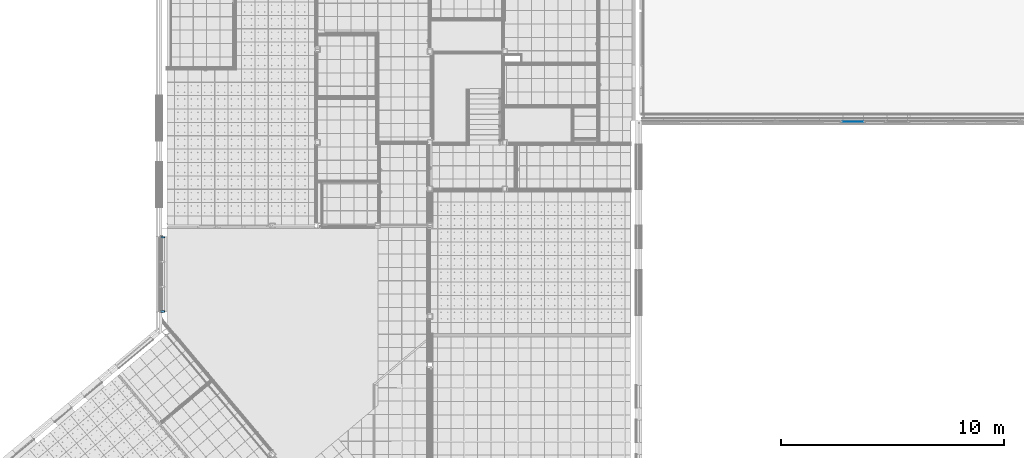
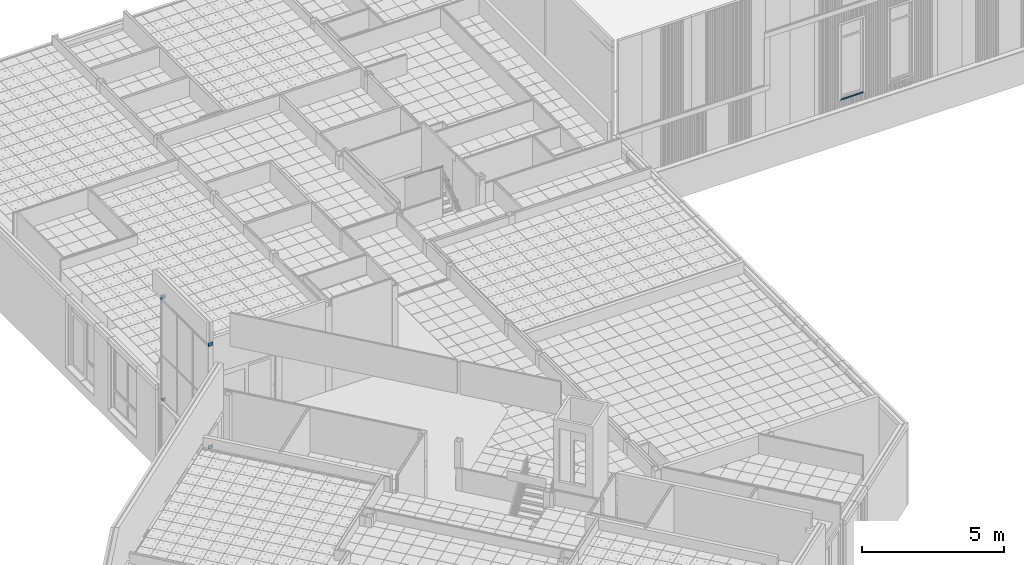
# One storey, part 42 of 338: 4 members, 1 beam, 1 element without a shape of its own.
"""IFC2X3 building model written with IfcOpenShell, lengths in millimetres."""

from ifc_helpers import new_model, entity, si_unit, converted_unit, derived_unit, money_unit, direction, frame, origin_with_axes, place, context, subcontext, project, spatial, faceted_brep, material, type_object, element, aggregate, save


model = new_model("IFC2X3")

# Units and contexts
model_context = context("Model", 3, precision=0.01, world=origin_with_axes(), true_north=direction((0.0, 1.0)))
plan_context = context("Plan", 3, precision=0.01, world=origin_with_axes(), true_north=direction((0.0, 1.0)))
body_context = subcontext(model_context, "Body", "Model", "MODEL_VIEW")
ifc_project = project(units=[si_unit("LENGTHUNIT", "METRE", prefix="MILLI"), si_unit("AREAUNIT", "SQUARE_METRE"), si_unit("VOLUMEUNIT", "CUBIC_METRE"), converted_unit("PLANEANGLEUNIT", "DEGREE", entity("IfcPlaneAngleMeasure", 0.0174532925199), si_unit("PLANEANGLEUNIT", "RADIAN"), dimensions=[0, 0, 0, 0, 0, 0, 0]), money_unit("EUR"), converted_unit("TIMEUNIT", "Year", entity("IfcTimeMeasure", 31556926.0), si_unit("TIMEUNIT", "SECOND"), dimensions=[0, 0, 1, 0, 0, 0, 0]), si_unit("MASSUNIT", "GRAM", prefix="KILO"), si_unit("THERMODYNAMICTEMPERATUREUNIT", "DEGREE_CELSIUS"), si_unit("LUMINOUSINTENSITYUNIT", "LUMEN"), si_unit("ENERGYUNIT", "JOULE", prefix="MEGA"), derived_unit("THERMALCONDUCTANCEUNIT", [(si_unit("POWERUNIT", "WATT"), 1), (si_unit("LENGTHUNIT", "METRE"), -1), (si_unit("THERMODYNAMICTEMPERATUREUNIT", "KELVIN"), -1)]), derived_unit("SPECIFICHEATCAPACITYUNIT", [(si_unit("ENERGYUNIT", "JOULE"), 1), (si_unit("MASSUNIT", "GRAM", prefix="KILO"), -1), (si_unit("THERMODYNAMICTEMPERATUREUNIT", "KELVIN"), -1)]), derived_unit("MASSDENSITYUNIT", [(si_unit("MASSUNIT", "GRAM", prefix="KILO"), 1), (si_unit("VOLUMEUNIT", "CUBIC_METRE"), -1)])], contexts=[model_context, plan_context])

# Site, building, storey
site_placement = place(None, origin_with_axes())
site = spatial("IfcSite", under=ifc_project, at=site_placement, Name="Fortuinstraat Woensdrecht", CompositionType="ELEMENT")
building_placement = place(site_placement, origin_with_axes())
building = spatial("IfcBuilding", under=site, at=building_placement, Name="IKC Fortuna", CompositionType="ELEMENT")
storey_placement = place(building_placement, origin_with_axes())
storey = spatial("IfcBuildingStorey", under=building, at=storey_placement, Name="00 begane grond", CompositionType="ELEMENT", Elevation=0.0)

# Curtain wall, members
curtain_wall_type = type_object("IfcCurtainWallType", Name="Curtain Wall Type", PredefinedType="NOTDEFINED")
curtain_wall_placement = place(storey_placement, frame((13569.9121752, 15129.2768159, -0.000250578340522), z_axis=(0.0, 0.0, 1.0), x_axis=(1.0, 0.0, 0.0)))
curtain_wall = element("IfcCurtainWall", 1, at=curtain_wall_placement, inside=storey, type_object=curtain_wall_type, Name="21_Vliesgevel_Vliesgevel")
ifc_material_1 = material(Name="ALG - ALGEMEEN")
member_type = type_object("IfcMemberType", Name="Boundary Frame 50 x 180", PredefinedType="MULLION")
member_1_placement = place(curtain_wall_placement, frame((0.0, 565.0, 2236.5), z_axis=(0.0, 0.0, 1.0), x_axis=(0.0, 1.0, 0.0)))
member_1 = element("IfcMember", 2, at=member_1_placement, type_object=member_type, material=ifc_material_1, Name="_Vliesgevel - kader_Kader-x", ObjectType="MULLION", context=body_context, shape_type="Brep", body=[
    faceted_brep([(-30.0, -22.0, 124.0), (-50.0, -22.0, 124.0), (-50.0, -133.5, 124.0), (0.0, -133.5, 124.0), (0.0, 46.5, 124.0), (-50.0, 46.5, 124.0), (-50.0, 22.0, 124.0), (-30.0, 22.0, 124.0), (-30.0, -22.0, 0.0), (-50.0, -22.0, 0.0), (-50.0, -133.5, 0.0), (0.0, -133.5, 0.0), (0.0, 46.5, 0.0), (-50.0, 46.5, 0.0), (-50.0, 22.0, 0.0), (-30.0, 22.0, 0.0)], [[[0, 1, 2, 3, 4, 5, 6, 7]], [[0, 8, 9, 1]], [[9, 10, 2, 1]], [[10, 11, 3, 2]], [[11, 12, 4, 3]], [[12, 13, 5, 4]], [[6, 5, 13, 14]], [[14, 15, 7, 6]], [[7, 15, 8, 0]], [[8, 15, 14, 13, 12, 11, 10, 9]]]),
])
member_2_placement = place(curtain_wall_placement, frame((0.0, -2818.86270653, 2236.5), z_axis=(0.0, 2.97422645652e-07, 1.0), x_axis=(0.0, 1.0, -2.97422645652e-07)))
member_2 = element("IfcMember", 3, at=member_2_placement, type_object=member_type, material=ifc_material_1, Name="_Vliesgevel - kader_Kader-x", ObjectType="MULLION", context=body_context, shape_type="Brep", body=[
    faceted_brep([(29.9999631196, -22.0, 124.00001566), (29.9999631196, 22.0, 124.00001566), (49.9999631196, 22.0, 124.000021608), (49.9999631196, 46.5, 124.000021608), (-3.68804098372e-05, 46.5, 124.000006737), (-3.68804098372e-05, -133.5, 124.000006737), (49.9999631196, -133.5, 124.000021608), (49.9999631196, -22.0, 124.000021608), (30.0, -22.0, 1.48711354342e-06), (30.0, 22.0, 1.48711354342e-06), (50.0, 22.0, 7.43556638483e-06), (50.0, 46.5, 7.43556638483e-06), (0.0, 46.5, -7.43556594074e-06), (0.0, -133.5, -7.43556594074e-06), (50.0, -133.5, 7.43556638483e-06), (50.0, -22.0, 7.43556638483e-06)], [[[0, 1, 2, 3, 4, 5, 6, 7]], [[1, 0, 8, 9]], [[10, 2, 1, 9]], [[2, 10, 11, 3]], [[12, 4, 3, 11]], [[13, 5, 4, 12]], [[14, 6, 5, 13]], [[15, 7, 6, 14]], [[0, 7, 15, 8]], [[8, 15, 14, 13, 12, 11, 10, 9]]]),
])
member_3_placement = place(curtain_wall_placement, frame((0.0, 565.0, 6635.0), z_axis=(0.0, 0.0, 1.0), x_axis=(0.0, 1.0, 0.0)))
member_3 = element("IfcMember", 4, at=member_3_placement, type_object=member_type, material=ifc_material_1, Name="_Vliesgevel - kader_Kader-x", ObjectType="MULLION", context=body_context, shape_type="Brep", body=[
    faceted_brep([(-30.0, -22.0, 135.000022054), (-50.0, -22.0, 115.000022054), (-50.0, -133.5, 115.000022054), (0.0, -133.5, 165.000022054), (0.0, 46.5, 165.000022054), (-50.0, 46.5, 115.000022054), (-50.0, 22.0, 115.000022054), (-30.0, 22.0, 135.000022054), (-30.0, -22.0, 0.0), (-50.0, -22.0, 0.0), (-50.0, -133.5, 0.0), (0.0, -133.5, 0.0), (0.0, 46.5, 0.0), (-50.0, 46.5, 0.0), (-50.0, 22.0, 0.0), (-30.0, 22.0, 0.0)], [[[0, 1, 2, 3, 4, 5, 6, 7]], [[0, 8, 9, 1]], [[9, 10, 2, 1]], [[10, 11, 3, 2]], [[11, 12, 4, 3]], [[12, 13, 5, 4]], [[6, 5, 13, 14]], [[14, 15, 7, 6]], [[7, 15, 8, 0]], [[8, 15, 14, 13, 12, 11, 10, 9]]]),
])
member_4_placement = place(curtain_wall_placement, frame((0.0, -2818.86262301, 6635.0), z_axis=(0.0, 0.0, 1.0), x_axis=(0.0, 1.0, 0.0)))
member_4 = element("IfcMember", 5, at=member_4_placement, type_object=member_type, material=ifc_material_1, Name="_Vliesgevel - kader_Kader-x", ObjectType="MULLION", context=body_context, shape_type="Brep", body=[
    faceted_brep([(30.0, -22.0, 135.000022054), (30.0, 22.0, 135.000022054), (50.0, 22.0, 115.000022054), (50.0, 46.5, 115.000022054), (0.0, 46.5, 165.000022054), (0.0, -133.5, 165.000022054), (50.0, -133.5, 115.000022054), (50.0, -22.0, 115.000022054), (30.0, -22.0, -7.23767712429e-08), (30.0, 22.0, -7.23767712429e-08), (50.0, 22.0, -7.23767712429e-08), (50.0, 46.5, -7.23767712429e-08), (0.0, 46.5, -7.23767712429e-08), (0.0, -133.5, -7.23767712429e-08), (50.0, -133.5, -7.23767712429e-08), (50.0, -22.0, -7.23767712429e-08)], [[[0, 1, 2, 3, 4, 5, 6, 7]], [[1, 0, 8, 9]], [[10, 2, 1, 9]], [[2, 10, 11, 3]], [[12, 4, 3, 11]], [[13, 5, 4, 12]], [[14, 6, 5, 13]], [[15, 7, 6, 14]], [[0, 7, 15, 8]], [[8, 15, 14, 13, 12, 11, 10, 9]]]),
])
aggregate(curtain_wall, [member_1, member_2, member_3, member_4])

# Beam
ifc_material_2 = material(Name="Metaal - Aluminium")
beam_type = type_object("IfcBeamType", Name="41 Zetwerk SW o 74 x 109", PredefinedType="BEAM")
beam_placement = place(storey_placement, frame((45057.4270571, 20910.3027434, 1419.99923315), z_axis=(0.0, 0.0, 1.0), x_axis=(0.0, 1.0, 0.0)))
element("IfcBeam", 6, at=beam_placement, inside=storey, type_object=beam_type, material=ifc_material_2, Name="28_Balk_UNP203", ObjectType="BEAM", context=body_context, shape_type="Brep", body=[
    faceted_brep([(-55.9618218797, 0.0, -109.368266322), (-55.9618218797, 918.965675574, -109.368266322), (-55.9618218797, 918.965675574, -39.7151255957), (-55.9618218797, 0.0, -39.7151255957), (-56.0061151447, 919.965675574, -109.368256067), (-56.0061151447, 918.965675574, -109.368256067), (-56.0194605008, 0.0, -109.368256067), (-56.0194605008, 919.965675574, -109.368256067), (-56.0061151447, 918.965675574, -39.727241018), (-56.0070694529, 0.0, -39.727241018), (-56.0061151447, 919.965675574, -39.727241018)], [[[0, 1, 2, 3]], [[4, 5, 1, 0, 6, 7]], [[5, 8, 2, 1]], [[3, 2, 8, 9]], [[0, 3, 9, 6]], [[4, 10, 8, 5]], [[9, 8, 10, 7, 6]], [[7, 10, 4]]]),
])

save(model, "model.ifc")
